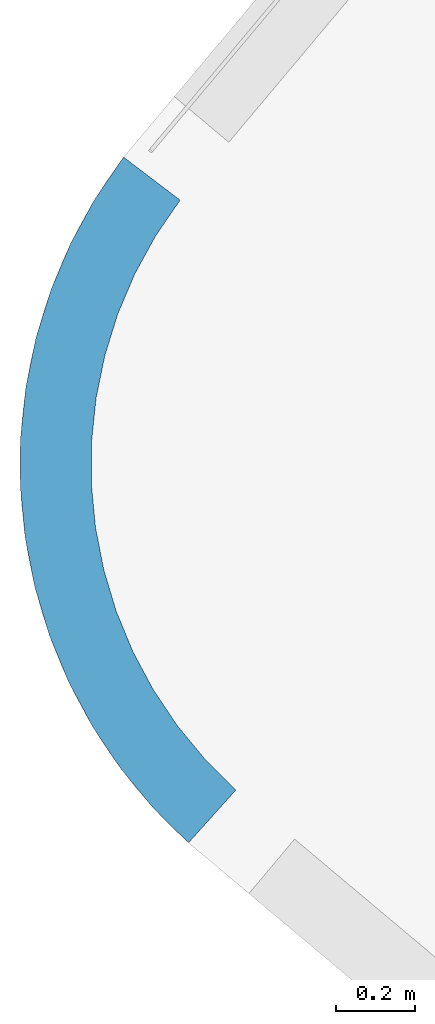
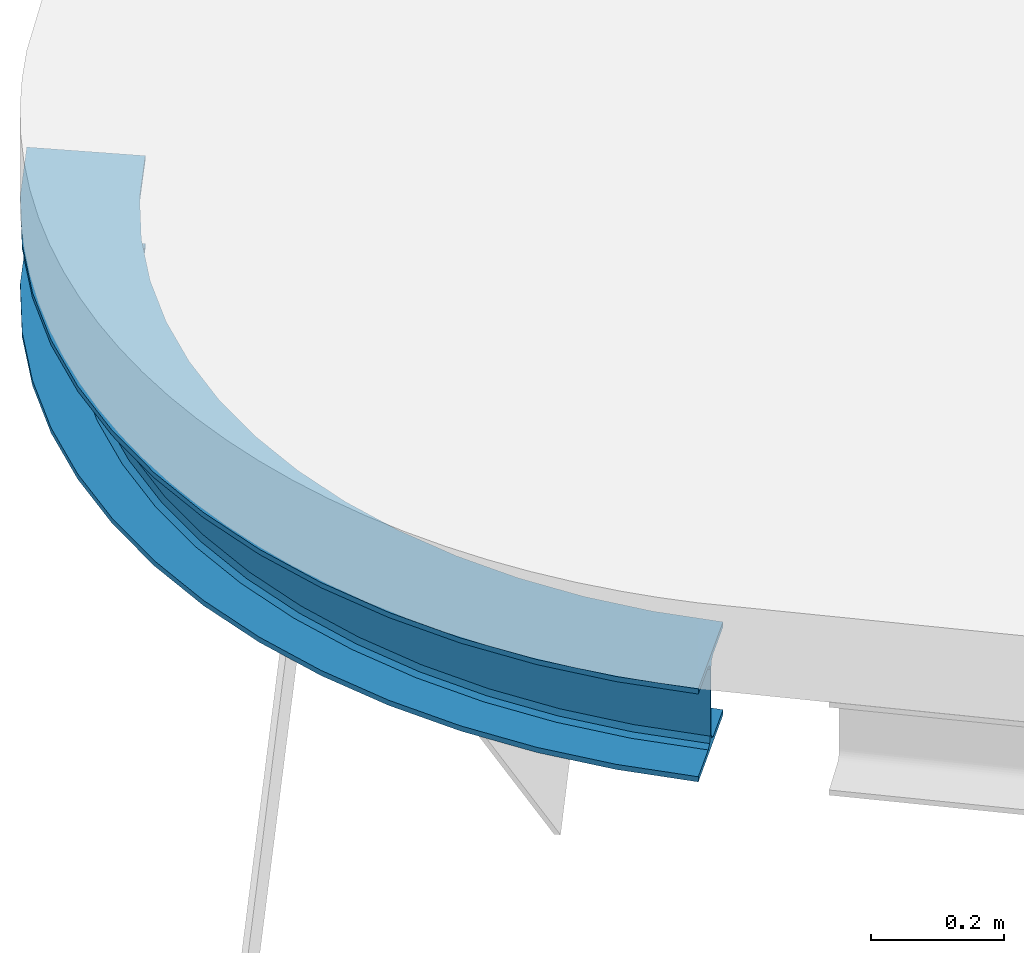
# One storey, part 8 of 14: 1 beam.
"""IFC2X3 building model written with IfcOpenShell, lengths in millimetres."""

import ifcopenshell
import ifcopenshell.guid

model = None  # the IFC model being written
_history = None  # IfcOwnerHistory: only IFC2X3 demands one
_inside = {}  # id of a spatial element -> (the spatial element, [elements in it])
_under = {}  # id of a project, library or spatial element -> (it, [spatial elements below it])
_declared = {}  # id of a project -> (the project, [libraries it declares])
_typed = {}  # id of a type object -> (the type object, [elements of that type])
_made_of = {}  # id of a material, layer set ... -> (it, [elements and type objects made of it])


def new_model(schema):
    """Start an empty IFC model of exactly this schema.

    Asked for "IFC4X3", IfcOpenShell would pick the latest addendum, in which some entities
    have other attributes; the version numbers below select the first issue.
    IFC2X3 requires an IfcOwnerHistory on every rooted entity: one is made here for all.
    """
    global model, _history
    if schema == "IFC4X3":
        model = ifcopenshell.file(schema_version=(4, 3, 0, 0))
    else:
        model = ifcopenshell.file(schema=schema)
    _inside.clear()
    _under.clear()
    _declared.clear()
    _typed.clear()
    _made_of.clear()
    _history = None
    if model.schema == "IFC2X3":
        org = make("IfcOrganization", Name="unknown")
        user = make(
            "IfcPersonAndOrganization",
            ThePerson=make("IfcPerson", FamilyName="unknown"),
            TheOrganization=org,
        )
        app = make(
            "IfcApplication",
            ApplicationDeveloper=org,
            Version="unknown",
            ApplicationFullName="unknown",
            ApplicationIdentifier="unknown",
        )
        _history = make(
            "IfcOwnerHistory",
            OwningUser=user,
            OwningApplication=app,
            ChangeAction="ADDED",
            CreationDate=0,
        )
    return model


def make(cls, **values):
    """One entity of the class cls with the attributes given. An attribute that is None is left unset."""
    return model.create_entity(
        cls, **{name: value for name, value in values.items() if value is not None}
    )


def entity(cls, *values):
    """Any entity or typed value of the class cls, its attributes in the order of the schema. None: left unset."""
    e = model.create_entity(cls)
    for i, value in enumerate(values):
        if value is not None:
            e[i] = value
    return e


def rooted(cls, **values):
    """An entity with a GlobalId (a new one), such as an element, a storey or a relation."""
    return make(cls, GlobalId=ifcopenshell.guid.new(), OwnerHistory=_history, **values)


def si_unit(unit_type, name, prefix=None):
    """IfcSIUnit, for example si_unit("LENGTHUNIT", "METRE", prefix="MILLI")."""
    return make("IfcSIUnit", UnitType=unit_type, Prefix=prefix, Name=name)


def converted_unit(unit_type, name, factor, base, dimensions=None, offset=None):
    """IfcConversionBasedUnit, such as the inch: factor (a typed value) times the base unit."""
    return make(
        "IfcConversionBasedUnit"
        if offset is None
        else "IfcConversionBasedUnitWithOffset",
        ConversionOffset=offset,
        Dimensions=None
        if dimensions is None
        else entity("IfcDimensionalExponents", *dimensions),
        UnitType=unit_type,
        Name=name,
        ConversionFactor=make(
            "IfcMeasureWithUnit", ValueComponent=factor, UnitComponent=base
        ),
    )


def derived_unit(unit_type, elements):
    """IfcDerivedUnit: a product of units, each with its exponent."""
    return make(
        "IfcDerivedUnit",
        Elements=[
            make("IfcDerivedUnitElement", Unit=unit, Exponent=power)
            for unit, power in elements
        ],
        UnitType=unit_type,
    )


def assignment(units):
    """IfcUnitAssignment: the units of a project."""
    return None if units is None else make("IfcUnitAssignment", Units=units)


def point(xyz):
    """IfcCartesianPoint."""
    return None if xyz is None else make("IfcCartesianPoint", Coordinates=xyz)


def direction(xyz):
    """IfcDirection."""
    return None if xyz is None else make("IfcDirection", DirectionRatios=xyz)


def frame(location, z_axis=None, x_axis=None):
    """IfcAxis2Placement3D, a coordinate frame: its origin and axes. An axis left out is left unset."""
    return make(
        "IfcAxis2Placement3D",
        Location=point(location),
        Axis=direction(z_axis),
        RefDirection=direction(x_axis),
    )


def origin():
    """The frame at (0, 0, 0) with its axes left unset."""
    return frame((0.0, 0.0, 0.0))


def place(relative_to, where):
    """IfcLocalPlacement: puts the frame where relative to a parent placement (None: the world)."""
    return make(
        "IfcLocalPlacement", PlacementRelTo=relative_to, RelativePlacement=where
    )


def context(
    kind, dimensions, precision=None, world=None, true_north=None, identifier=None
):
    """IfcGeometricRepresentationContext, for example the 3D "Model" context."""
    return make(
        "IfcGeometricRepresentationContext",
        ContextIdentifier=identifier,
        ContextType=kind,
        CoordinateSpaceDimension=dimensions,
        Precision=precision,
        WorldCoordinateSystem=world,
        TrueNorth=true_north,
    )


def subcontext(parent, identifier, kind, view, scale=None):
    """IfcGeometricRepresentationSubContext, for example "Body" below "Model"."""
    return make(
        "IfcGeometricRepresentationSubContext",
        ContextIdentifier=identifier,
        ContextType=kind,
        ParentContext=parent,
        TargetScale=scale,
        TargetView=view,
    )


def project(units=None, contexts=None):
    """IfcProject with its units and contexts."""
    return rooted(
        "IfcProject",
        Name="project",
        RepresentationContexts=contexts,
        UnitsInContext=assignment(units),
    )


def spatial(cls, under=None, at=None, **own):
    """A site, building, storey or space (cls), placed at a placement, below another one or the project."""
    s = rooted(cls, ObjectPlacement=at, **own)
    if under is not None:
        _under.setdefault(under.id(), (under, []))[1].append(s)
    return s


def faces_of(points, faces, orient=None, outer=None):
    """IfcFace entities. A face is a list of loops; a loop is a list of indices into points, from 0.

    orient and outer hold one flag for each loop. By default every Orientation is true, the
    first loop of a face is its IfcFaceOuterBound and the others are IfcFaceBound.
    """
    made = []
    for i, loops in enumerate(faces):
        bounds = []
        for j, loop in enumerate(loops):
            is_outer = j == 0 if outer is None else outer[i][j]
            bounds.append(
                make(
                    "IfcFaceOuterBound" if is_outer else "IfcFaceBound",
                    Bound=make("IfcPolyLoop", Polygon=[points[k] for k in loop]),
                    Orientation=True if orient is None else orient[i][j],
                )
            )
        made.append(make("IfcFace", Bounds=bounds))
    return made


def faceted_brep(points, faces, orient=None, outer=None, voids=None):
    """IfcFacetedBrep: a solid bounded by flat faces; with voids (closed shells), ...WithVoids."""
    shared = [point(p) for p in points]
    hull = make("IfcClosedShell", CfsFaces=faces_of(shared, faces, orient, outer))
    if voids is None:
        return make("IfcFacetedBrep", Outer=hull)
    return make(
        "IfcFacetedBrepWithVoids",
        Outer=hull,
        Voids=[
            make(cls, CfsFaces=faces_of(shared, fs, o, b)) for cls, fs, o, b in voids
        ],
    )


def shape(context_of_items, identifier, shape_type, items):
    """IfcShapeRepresentation: the items that make up one representation, for example the "Body"."""
    return make(
        "IfcShapeRepresentation",
        ContextOfItems=context_of_items,
        RepresentationIdentifier=identifier,
        RepresentationType=shape_type,
        Items=items,
    )


def material(Name=None, Category=None):
    """IfcMaterial."""
    return make("IfcMaterial", Name=Name, Category=Category)


def made_of(thing, what):
    """Note that an element or type object is made of a material, layer set ...; save() writes the relation."""
    if what is not None:
        _made_of.setdefault(what.id(), (what, []))[1].append(thing)
    return thing


def type_object(cls, material=None, **own):
    """A type object (cls), such as IfcWallType, which elements share."""
    return made_of(rooted(cls, **own), material)


def element(
    cls,
    number,
    at=None,
    inside=None,
    cuts=None,
    type_object=None,
    material=None,
    context=None,
    identifier="Body",
    shape_type=None,
    held_by="IfcProductDefinitionShape",
    body=None,
    shapes=None,
    **own,
):
    """One element of the class cls, such as IfcWall. Its Tag is "e" and its number.

    at: its placement. inside: the storey or other place that contains it. cuts: it is an
    opening in that element (IfcRelVoidsElement). A single representation is given by context,
    identifier, shape_type and body (its items); several are given by shapes. held_by: the class
    of the entity that holds the representations. save() writes the other relations.
    """
    e = rooted(cls, Tag="e%d" % number, ObjectPlacement=at, **own)
    if body is not None:
        shapes = [shape(context, identifier, shape_type, body)]
    if shapes is not None:
        e.Representation = make(held_by, Representations=shapes)
    if inside is not None:
        _inside.setdefault(inside.id(), (inside, []))[1].append(e)
    if cuts is not None:
        rooted(
            "IfcRelVoidsElement", RelatingBuildingElement=cuts, RelatedOpeningElement=e
        )
    if type_object is not None:
        _typed.setdefault(type_object.id(), (type_object, []))[1].append(e)
    return made_of(e, material)


def aggregate(whole, parts):
    """IfcRelAggregates: a whole, such as a stair, and the parts it consists of."""
    return rooted("IfcRelAggregates", RelatingObject=whole, RelatedObjects=parts)


def save(model, path):
    """Write the relations noted so far, then the file.

    IfcRelAggregates (storeys below a building ...), IfcRelContainedInSpatialStructure (elements
    in a storey), IfcRelDefinesByType, IfcRelAssociatesMaterial and IfcRelDeclares: one each for
    every whole, place, type object, material and project.
    """
    for whole, parts in _under.values():
        aggregate(whole, parts)
    for where, things in _inside.values():
        rooted(
            "IfcRelContainedInSpatialStructure",
            RelatedElements=things,
            RelatingStructure=where,
        )
    for kind, things in _typed.values():
        rooted("IfcRelDefinesByType", RelatedObjects=things, RelatingType=kind)
    for what, things in _made_of.values():
        rooted("IfcRelAssociatesMaterial", RelatedObjects=things, RelatingMaterial=what)
    for by, libraries in _declared.values():
        rooted("IfcRelDeclares", RelatingContext=by, RelatedDefinitions=libraries)
    model.write(path)


model = new_model("IFC2X3")

# Units and contexts
model_context = context("Model", 3, precision=0.01, world=origin(), true_north=direction((6.123031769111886e-17, 1.0)))
body_context = subcontext(model_context, "Body", "Model", "MODEL_VIEW")
ifc_project = project(units=[si_unit("LENGTHUNIT", "METRE", prefix="MILLI"), si_unit("AREAUNIT", "SQUARE_METRE"), si_unit("VOLUMEUNIT", "CUBIC_METRE"), derived_unit("MASSDENSITYUNIT", [(si_unit("MASSUNIT", "GRAM", prefix="KILO"), 1), (si_unit("LENGTHUNIT", "METRE"), -3)]), si_unit("MASSUNIT", "GRAM", prefix="KILO"), converted_unit("PLANEANGLEUNIT", "DEGREE", entity("IfcPlaneAngleMeasure", 0.017453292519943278), si_unit("PLANEANGLEUNIT", "RADIAN"), dimensions=[0, 0, 0, 0, 0, 0, 0])], contexts=[model_context])

# Site, building, storey
site_placement = place(None, origin())
site = spatial("IfcSite", under=ifc_project, at=site_placement, Name="Default", CompositionType="ELEMENT")
building_placement = place(site_placement, origin())
building = spatial("IfcBuilding", under=site, at=building_placement, Name="AT constructie", CompositionType="ELEMENT")
storey_placement = place(building_placement, frame((0.0, 0.0, 12043.0)))
storey = spatial("IfcBuildingStorey", under=building, at=storey_placement, Name="03 derde verdieping", CompositionType="ELEMENT", Elevation=12043.0)

# Beam
ifc_material = material(Name="h2_staal_S355")
beam_type = type_object("IfcBeamType", Name="balk HE_gen_HEA180", PredefinedType="NOTDEFINED")
beam_placement = place(storey_placement, frame((7904.880836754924, 36284.616264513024, 0.0)))
element("IfcBeam", 1, at=beam_placement, inside=storey, type_object=beam_type, material=ifc_material, Name="NLRS_28_SF_LIB_balk HEA_gen_AT:balk HE_gen_HEA180", ObjectType="NLRS_28_SF_LIB_balk HEA_gen_AT:balk HE_gen_HEA180", context=body_context, shape_type="Brep", body=[
    faceted_brep([(-1097.551484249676, 673.8556473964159, -180.0), (-944.1557108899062, 579.6763677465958, -180.0), (-882.0856226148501, 670.3578537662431, -180.0), (-1025.3969479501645, 779.2700387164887, -180.0), (-944.1557108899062, 579.6763677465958, -189.5000000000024), (-882.0856226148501, 670.3578537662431, -189.5000000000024), (-1005.5140202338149, 617.3480796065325, -189.4999999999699), (-939.4101527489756, 713.92272774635, -189.4999999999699), (-1014.5529528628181, 622.8976468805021, -193.89339828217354), (-947.8548535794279, 720.3404397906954, -193.89339828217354), (-1018.2970013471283, 625.1963529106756, -204.50000000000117), (-951.3527631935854, 722.9987431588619, -204.50000000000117), (-1018.2970013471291, 625.1963529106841, -326.49999999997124), (-951.3527631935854, 722.9987431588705, -326.49999999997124), (-1014.5529528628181, 622.8976468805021, -337.10660171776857), (-947.8548535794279, 720.3404397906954, -337.10660171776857), (-1005.514020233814, 617.3480796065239, -341.5000000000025), (-939.4101527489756, 713.9227277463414, -341.5000000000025), (-944.1557108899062, 579.6763677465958, -341.5000000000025), (-882.0856226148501, 670.3578537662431, -341.5000000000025), (-944.1557108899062, 579.6763677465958, -351.0), (-882.0856226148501, 670.3578537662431, -351.0), (-1097.551484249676, 673.8556473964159, -351.0), (-1025.3969479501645, 779.2700387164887, -351.0), (-1097.551484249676, 673.8556473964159, -341.5000000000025), (-1025.3969479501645, 779.2700387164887, -341.5000000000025), (-1036.1931749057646, 636.183935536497, -341.4999999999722), (-968.0724178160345, 735.7051647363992, -341.4999999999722), (-1027.1542422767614, 630.6343682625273, -337.10660171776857), (-959.6277169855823, 729.2874526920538, -337.10660171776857), (-1023.410193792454, 628.3356622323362, -326.5000000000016), (-956.1298073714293, 726.62914932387, -326.5000000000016), (-1023.4101937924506, 628.3356622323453, -204.49999999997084), (-956.1298073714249, 726.6291493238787, -204.49999999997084), (-1027.1542422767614, 630.6343682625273, -193.89339828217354), (-959.6277169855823, 729.2874526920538, -193.89339828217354), (-1036.1931749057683, 636.183935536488, -189.5000000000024), (-968.072417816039, 735.7051647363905, -189.5000000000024), (-1097.551484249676, 673.8556473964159, -189.5000000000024), (-1025.3969479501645, 779.2700387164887, -189.5000000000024), (-1158.9081941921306, 561.8117937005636, -180.0), (-996.9370964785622, 483.2919649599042, -180.0), (-996.9370964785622, 483.2919649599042, -189.5000000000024), (-1061.7255355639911, 514.6998964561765, -189.4999999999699), (-1071.2697740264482, 519.3267217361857, -193.89339828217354), (-1075.2231270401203, 521.2432155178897, -204.50000000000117), (-1075.2231270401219, 521.243215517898, -326.49999999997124), (-1071.2697740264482, 519.3267217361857, -337.10660171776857), (-1061.7255355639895, 514.6998964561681, -341.5000000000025), (-996.9370964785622, 483.2919649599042, -341.5000000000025), (-996.9370964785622, 483.2919649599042, -351.0), (-1158.9081941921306, 561.8117937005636, -351.0), (-1158.9081941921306, 561.8117937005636, -341.5000000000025), (-1094.119755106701, 530.4038622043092, -341.4999999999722), (-1084.5755166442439, 525.7770369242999, -337.10660171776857), (-1080.6221636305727, 523.8605431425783, -326.5000000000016), (-1080.6221636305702, 523.8605431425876, -204.49999999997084), (-1084.5755166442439, 525.7770369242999, -193.89339828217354), (-1094.1197551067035, 530.4038622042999, -189.5000000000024), (-1158.9081941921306, 561.8117937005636, -189.5000000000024), (-1208.8634440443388, 444.24077678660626, -180.0), (-1039.9105105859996, 382.1528852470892, -180.0), (-1039.9105105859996, 382.1528852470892, -189.5000000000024), (-1107.4916839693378, 406.9880418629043, -189.4999999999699), (-1117.4473310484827, 410.646605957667, -193.89339828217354), (-1121.5710950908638, 412.1620328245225, -204.50000000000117), (-1121.571095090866, 412.1620328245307, -326.49999999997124), (-1117.4473310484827, 410.646605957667, -337.10660171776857), (-1107.4916839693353, 406.98804186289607, -341.5000000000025), (-1039.9105105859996, 382.1528852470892, -341.5000000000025), (-1039.9105105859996, 382.1528852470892, -351.0), (-1208.8634440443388, 444.24077678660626, -351.0), (-1208.8634440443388, 444.24077678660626, -341.5000000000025), (-1141.2822706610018, 419.40562017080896, -341.4999999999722), (-1131.3266235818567, 415.74705607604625, -337.10660171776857), (-1127.2028595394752, 414.231629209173, -326.5000000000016), (-1127.2028595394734, 414.2316292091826, -204.49999999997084), (-1131.3266235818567, 415.74705607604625, -193.89339828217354), (-1141.2822706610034, 419.40562017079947, -189.5000000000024), (-1208.8634440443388, 444.24077678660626, -189.5000000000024), (-1246.9257688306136, 322.29927262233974, -180.0), (-1072.6531762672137, 277.2541454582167, -180.0), (-1072.6531762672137, 277.2541454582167, -189.5000000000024), (-1142.3622132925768, 295.2721963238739, -189.4999999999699), (-1152.6313242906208, 297.92650589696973, -193.89339828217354), (-1156.8849293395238, 299.02595692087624, -204.50000000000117), (-1156.884929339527, 299.02595692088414, -326.49999999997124), (-1152.6313242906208, 297.92650589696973, -337.10660171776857), (-1142.3622132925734, 295.272196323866, -341.5000000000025), (-1072.6531762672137, 277.2541454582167, -341.5000000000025), (-1072.6531762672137, 277.2541454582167, -351.0), (-1246.9257688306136, 322.29927262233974, -351.0), (-1246.9257688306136, 322.29927262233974, -341.5000000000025), (-1177.2167318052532, 304.2812217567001, -341.4999999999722), (-1166.947620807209, 301.6269121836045, -337.10660171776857), (-1162.6940157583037, 300.5274611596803, -326.5000000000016), (-1162.694015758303, 300.52746115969, -204.49999999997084), (-1166.947620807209, 301.6269121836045, -193.89339828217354), (-1177.2167318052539, 304.2812217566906, -189.5000000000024), (-1246.9257688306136, 322.29927262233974, -189.5000000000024), (-1272.720707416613, 197.18695448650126, -180.0), (-1094.8429677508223, 169.62775037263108, -180.0), (-1094.8429677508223, 169.62775037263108, -189.5000000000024), (-1165.9940636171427, 180.6514320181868, -189.4999999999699), (-1176.4756099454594, 182.27537369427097, -193.89339828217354), (-1180.8172085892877, 182.94803236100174, -204.50000000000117), (-1180.817208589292, 182.94803236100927, -326.49999999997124), (-1176.4756099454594, 182.27537369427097, -337.10660171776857), (-1165.9940636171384, 180.65143201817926, -341.5000000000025), (-1094.8429677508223, 169.62775037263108, -341.5000000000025), (-1094.8429677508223, 169.62775037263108, -351.0), (-1272.720707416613, 197.18695448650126, -351.0), (-1272.720707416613, 197.18695448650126, -341.5000000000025), (-1201.5696115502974, 186.16327284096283, -341.4999999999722), (-1191.0880652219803, 184.53933116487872, -337.10660171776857), (-1186.7464665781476, 183.86667249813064, -326.5000000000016), (-1186.746466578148, 183.86667249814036, -204.49999999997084), (-1191.0880652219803, 184.53933116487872, -193.89339828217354), (-1201.569611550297, 186.16327284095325, -189.5000000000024), (-1272.720707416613, 197.18695448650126, -189.5000000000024), (-1285.9944864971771, 70.13469045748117, -180.0), (-1106.261579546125, 60.33253972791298, -180.0), (-1106.261579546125, 60.33253972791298, -189.5000000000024), (-1178.1547423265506, 64.25340001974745, -189.4999999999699), (-1188.745605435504, 64.83099729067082, -193.89339828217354), (-1193.1324845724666, 65.07024591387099, -204.50000000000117), (-1193.1324845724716, 65.07024591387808, -326.49999999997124), (-1188.745605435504, 64.83099729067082, -337.10660171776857), (-1178.1547423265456, 64.25340001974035, -341.5000000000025), (-1106.261579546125, 60.33253972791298, -341.5000000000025), (-1106.261579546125, 60.33253972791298, -351.0), (-1285.9944864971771, 70.13469045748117, -351.0), (-1285.9944864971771, 70.13469045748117, -341.5000000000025), (-1214.1013237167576, 66.21383016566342, -341.4999999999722), (-1203.510460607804, 65.63623289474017, -337.10660171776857), (-1199.1235814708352, 65.39698427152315, -326.5000000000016), (-1199.1235814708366, 65.39698427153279, -204.49999999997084), (-1203.510460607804, 65.63623289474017, -193.89339828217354), (-1214.1013237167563, 66.2138301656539, -189.5000000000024), (-1285.9944864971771, 70.13469045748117, -189.5000000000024), (-1286.6165172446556, -57.60756599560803, -180.0), (-1106.7966741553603, -49.55622875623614, -180.0), (-1106.7966741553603, -49.55622875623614, -189.5000000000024), (-1178.724611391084, -52.77676365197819, -189.4999999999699), (-1189.320597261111, -53.25119324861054, -193.89339828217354), (-1193.7095983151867, -53.4477084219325, -204.50000000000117), (-1193.7095983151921, -53.44770842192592, -326.49999999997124), (-1189.320597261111, -53.25119324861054, -337.10660171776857), (-1178.7246113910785, -52.77676365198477, -341.5000000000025), (-1106.7966741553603, -49.55622875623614, -341.5000000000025), (-1106.7966741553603, -49.55622875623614, -351.0), (-1286.6165172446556, -57.60756599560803, -351.0), (-1286.6165172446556, -57.60756599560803, -341.5000000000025), (-1214.6885800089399, -54.38703109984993, -341.4999999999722), (-1204.0925941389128, -53.91260150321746, -337.10660171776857), (-1199.7035930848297, -53.716086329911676, -326.5000000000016), (-1199.703593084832, -53.71608632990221, -204.49999999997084), (-1204.0925941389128, -53.91260150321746, -193.89339828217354), (-1214.6885800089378, -54.387031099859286, -189.5000000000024), (-1286.6165172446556, -57.60756599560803, -189.5000000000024), (-1274.5806800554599, -184.78307318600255, -180.0), (-1096.4429872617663, -158.95745787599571, -180.0), (-1096.4429872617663, -158.95745787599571, -189.5000000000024), (-1167.6980643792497, -169.28770399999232, -189.4999999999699), (-1178.1949285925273, -170.80949297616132, -193.89339828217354), (-1182.5428721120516, -171.43983860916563, -204.50000000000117), (-1182.5428721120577, -171.43983860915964, -326.49999999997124), (-1178.1949285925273, -170.80949297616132, -337.10660171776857), (-1167.6980643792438, -169.2877039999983, -341.5000000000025), (-1096.4429872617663, -158.95745787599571, -341.5000000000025), (-1096.4429872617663, -158.95745787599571, -351.0), (-1274.5806800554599, -184.78307318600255, -351.0), (-1274.5806800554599, -184.78307318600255, -341.5000000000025), (-1203.3256029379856, -174.45282706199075, -341.4999999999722), (-1192.8287387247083, -172.93103808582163, -337.10660171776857), (-1188.4807952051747, -172.30069245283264, -326.5000000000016), (-1188.4807952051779, -172.30069245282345, -204.49999999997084), (-1192.8287387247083, -172.93103808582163, -193.89339828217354), (-1203.3256029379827, -174.45282706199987, -189.5000000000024), (-1274.5806800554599, -184.78307318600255, -189.5000000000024), (-1250.0053847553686, -310.14066516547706, -180.0), (-1075.3023795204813, -266.7948468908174, -180.0), (-1075.3023795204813, -266.7948468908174, -189.5000000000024), (-1145.1835816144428, -284.1331742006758, -189.4999999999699), (-1155.4780549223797, -286.6873510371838, -193.89339828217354), (-1159.7421653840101, -287.7453257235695, -204.50000000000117), (-1159.742165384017, -287.7453257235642, -326.49999999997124), (-1155.4780549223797, -286.6873510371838, -337.10660171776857), (-1145.1835816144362, -284.13317420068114, -341.5000000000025), (-1075.3023795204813, -266.7948468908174, -341.5000000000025), (-1075.3023795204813, -266.7948468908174, -351.0), (-1250.0053847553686, -310.14066516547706, -351.0), (-1250.0053847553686, -310.14066516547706, -341.5000000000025), (-1180.124182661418, -292.8023378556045, -341.4999999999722), (-1169.8297093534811, -290.2481610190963, -337.10660171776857), (-1165.5655988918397, -289.190186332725, -326.5000000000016), (-1165.5655988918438, -289.1901863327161, -204.49999999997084), (-1169.8297093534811, -290.2481610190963, -193.89339828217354), (-1180.1241826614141, -292.80233785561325, -189.5000000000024), (-1250.0053847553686, -310.14066516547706, -189.5000000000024), (-1213.132405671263, -432.4470608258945, -180.0), (-1043.5828344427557, -372.0074802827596, -180.0), (-1043.5828344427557, -372.0074802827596, -189.5000000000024), (-1111.4026629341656, -396.18331250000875, -189.4999999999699), (-1121.3934672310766, -399.7447489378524, -193.89339828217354), (-1125.5317938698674, -401.2199442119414, -204.50000000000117), (-1125.531793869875, -401.2199442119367, -326.49999999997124), (-1121.3934672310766, -399.7447489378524, -337.10660171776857), (-1111.4026629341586, -396.1833125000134, -341.5000000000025), (-1043.5828344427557, -372.0074802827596, -341.5000000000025), (-1043.5828344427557, -372.0074802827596, -351.0), (-1213.132405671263, -432.4470608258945, -351.0), (-1213.132405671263, -432.4470608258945, -341.5000000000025), (-1145.312577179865, -408.27122860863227, -341.4999999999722), (-1135.321772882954, -404.70979217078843, -337.10660171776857), (-1131.1834462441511, -403.2345968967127, -326.5000000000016), (-1131.1834462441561, -403.2345968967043, -204.49999999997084), (-1135.321772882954, -404.70979217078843, -193.89339828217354), (-1145.3125771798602, -408.2712286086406, -189.5000000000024), (-1213.132405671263, -432.4470608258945, -189.5000000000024), (-1164.3245030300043, -550.4989970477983, -180.0), (-1001.5964122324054, -473.5602651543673, -180.0), (-1001.5964122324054, -473.5602651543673, -189.5000000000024), (-1066.6876485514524, -504.33575791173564, -189.4999999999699), (-1076.2764932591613, -508.8694161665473, -193.89339828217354), (-1080.2483227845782, -510.7473189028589, -204.50000000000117), (-1080.248322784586, -510.747318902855, -326.49999999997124), (-1076.2764932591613, -508.8694161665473, -337.10660171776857), (-1066.687648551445, -504.33575791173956, -341.5000000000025), (-1001.5964122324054, -473.5602651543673, -341.5000000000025), (-1001.5964122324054, -473.5602651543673, -351.0), (-1164.3245030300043, -550.4989970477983, -351.0), (-1164.3245030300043, -550.4989970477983, -341.5000000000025), (-1099.2332667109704, -519.7235042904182, -341.4999999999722), (-1089.6444220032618, -515.1898460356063, -337.10660171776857), (-1085.6725924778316, -513.3119432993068, -326.5000000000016), (-1085.6725924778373, -513.311943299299, -204.49999999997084), (-1089.6444220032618, -515.1898460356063, -193.89339828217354), (-1099.233266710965, -519.723504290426, -189.5000000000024), (-1164.3245030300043, -550.4989970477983, -189.5000000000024), (-1104.0618540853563, -663.1350665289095, -180.0), (-949.7561797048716, -570.4541145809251, -180.0), (-949.7561797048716, -570.4541145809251, -189.5000000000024), (-1011.4784494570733, -607.5264953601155, -189.4999999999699), (-1020.5709985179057, -612.9877728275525, -193.89339828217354), (-1024.337255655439, -615.2499080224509, -204.50000000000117), (-1024.3372556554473, -615.2499080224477, -326.49999999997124), (-1020.5709985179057, -612.9877728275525, -337.10660171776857), (-1011.4784494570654, -607.5264953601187, -341.5000000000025), (-949.7561797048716, -570.4541145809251, -341.5000000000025), (-949.7561797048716, -570.4541145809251, -351.0), (-1104.0618540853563, -663.1350665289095, -351.0), (-1104.0618540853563, -663.1350665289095, -341.5000000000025), (-1042.339584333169, -626.0626857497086, -341.4999999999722), (-1033.2470352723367, -620.6014082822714, -337.10660171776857), (-1029.4807781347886, -618.3392730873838, -326.5000000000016), (-1029.4807781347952, -618.3392730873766, -204.49999999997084), (-1033.2470352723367, -620.6014082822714, -193.89339828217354), (-1042.3395843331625, -626.0626857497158, -189.5000000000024), (-1104.0618540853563, -663.1350665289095, -189.5000000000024), (-1032.9373290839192, -769.2471438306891, -180.0), (-888.5721464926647, -661.7357767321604, -180.0), (-888.5721464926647, -661.7357767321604, -189.5000000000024), (-946.3182195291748, -704.7403235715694, -189.4999999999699), (-954.8250194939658, -711.0754916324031, -193.89339828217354), (-958.3486514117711, -713.6996041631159, -204.50000000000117), (-958.3486514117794, -713.6996041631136, -326.49999999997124), (-954.8250194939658, -711.0754916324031, -337.10660171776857), (-946.3182195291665, -704.7403235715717, -341.5000000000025), (-888.5721464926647, -661.7357767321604, -341.5000000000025), (-888.5721464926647, -661.7357767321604, -351.0), (-1032.9373290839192, -769.2471438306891, -351.0), (-1032.9373290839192, -769.2471438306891, -341.5000000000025), (-975.1912560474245, -726.2425969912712, -341.4999999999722), (-966.6844560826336, -719.9074289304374, -337.10660171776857), (-963.1608241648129, -717.2833163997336, -326.5000000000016), (-963.16082416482, -717.2833163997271, -204.49999999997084), (-966.6844560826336, -719.9074289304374, -193.89339828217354), (-975.1912560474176, -726.2425969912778, -189.5000000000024), (-1032.9373290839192, -769.2471438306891, -189.5000000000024), (-951.6506585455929, -867.791287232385, -180.0), (-818.6462475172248, -746.5072130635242, -180.0), (-818.6462475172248, -746.5072130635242, -189.5000000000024), (-871.8480119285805, -795.0208427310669, -189.4999999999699), (-879.6853720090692, -802.167575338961, -193.89339828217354), (-882.9317128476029, -805.127848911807, -204.50000000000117), (-882.9317128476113, -805.1278489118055, -326.49999999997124), (-879.6853720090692, -802.167575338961, -337.10660171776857), (-871.8480119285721, -795.0208427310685, -341.5000000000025), (-818.6462475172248, -746.5072130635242, -341.5000000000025), (-818.6462475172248, -746.5072130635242, -351.0), (-951.6506585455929, -867.791287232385, -351.0), (-951.6506585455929, -867.791287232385, -341.5000000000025), (-898.4488941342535, -819.2776575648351, -341.4999999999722), (-890.6115340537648, -812.1309249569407, -337.10660171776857), (-887.3651932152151, -809.1706513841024, -326.5000000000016), (-887.3651932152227, -809.1706513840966, -204.49999999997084), (-890.6115340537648, -812.1309249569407, -193.89339828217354), (-898.4488941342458, -819.2776575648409, -189.5000000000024), (-951.6506585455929, -867.791287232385, -189.5000000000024), (-861.001549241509, -957.7980091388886, -180.0), (-740.6664210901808, -823.9344333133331, -180.0), (-740.6664210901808, -823.9344333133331, -189.5000000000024), (-788.8004723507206, -877.4798636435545, -189.4999999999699), (-795.8912877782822, -885.3678504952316, -193.89339828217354), (-798.8283996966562, -888.6351616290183, -204.50000000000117), (-798.8283996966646, -888.6351616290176, -326.49999999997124), (-795.8912877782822, -885.3678504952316, -337.10660171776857), (-788.8004723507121, -877.4798636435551, -341.5000000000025), (-740.6664210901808, -823.9344333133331, -341.5000000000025), (-740.6664210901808, -823.9344333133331, -351.0), (-861.001549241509, -957.7980091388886, -351.0), (-861.001549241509, -957.7980091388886, -341.5000000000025), (-812.8674979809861, -904.2525788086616, -341.4999999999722), (-805.7766825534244, -896.3645919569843, -337.10660171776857), (-802.8395706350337, -893.0972808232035, -326.5000000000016), (-802.8395706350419, -893.0972808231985, -204.49999999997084), (-805.7766825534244, -896.3645919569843, -193.89339828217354), (-812.8674979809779, -904.2525788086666, -189.5000000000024), (-861.001549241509, -957.7980091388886, -189.5000000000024)], [[[0, 1, 2, 3]], [[1, 4, 5, 2]], [[4, 6, 7, 5]], [[6, 8, 9, 7]], [[8, 10, 11, 9]], [[10, 12, 13, 11]], [[12, 14, 15, 13]], [[14, 16, 17, 15]], [[16, 18, 19, 17]], [[18, 20, 21, 19]], [[20, 22, 23, 21]], [[22, 24, 25, 23]], [[24, 26, 27, 25]], [[26, 28, 29, 27]], [[28, 30, 31, 29]], [[30, 32, 33, 31]], [[32, 34, 35, 33]], [[34, 36, 37, 35]], [[36, 38, 39, 37]], [[38, 0, 3, 39]], [[40, 41, 1, 0]], [[41, 42, 4, 1]], [[42, 43, 6, 4]], [[43, 44, 8, 6]], [[44, 45, 10, 8]], [[45, 46, 12, 10]], [[46, 47, 14, 12]], [[47, 48, 16, 14]], [[48, 49, 18, 16]], [[49, 50, 20, 18]], [[50, 51, 22, 20]], [[51, 52, 24, 22]], [[52, 53, 26, 24]], [[53, 54, 28, 26]], [[54, 55, 30, 28]], [[55, 56, 32, 30]], [[56, 57, 34, 32]], [[57, 58, 36, 34]], [[58, 59, 38, 36]], [[59, 40, 0, 38]], [[60, 61, 41, 40]], [[61, 62, 42, 41]], [[62, 63, 43, 42]], [[63, 64, 44, 43]], [[64, 65, 45, 44]], [[65, 66, 46, 45]], [[66, 67, 47, 46]], [[67, 68, 48, 47]], [[68, 69, 49, 48]], [[69, 70, 50, 49]], [[70, 71, 51, 50]], [[71, 72, 52, 51]], [[72, 73, 53, 52]], [[73, 74, 54, 53]], [[74, 75, 55, 54]], [[75, 76, 56, 55]], [[76, 77, 57, 56]], [[77, 78, 58, 57]], [[78, 79, 59, 58]], [[79, 60, 40, 59]], [[80, 81, 61, 60]], [[81, 82, 62, 61]], [[82, 83, 63, 62]], [[83, 84, 64, 63]], [[84, 85, 65, 64]], [[85, 86, 66, 65]], [[86, 87, 67, 66]], [[87, 88, 68, 67]], [[88, 89, 69, 68]], [[89, 90, 70, 69]], [[90, 91, 71, 70]], [[91, 92, 72, 71]], [[92, 93, 73, 72]], [[93, 94, 74, 73]], [[94, 95, 75, 74]], [[95, 96, 76, 75]], [[96, 97, 77, 76]], [[97, 98, 78, 77]], [[98, 99, 79, 78]], [[99, 80, 60, 79]], [[100, 101, 81, 80]], [[101, 102, 82, 81]], [[102, 103, 83, 82]], [[103, 104, 84, 83]], [[104, 105, 85, 84]], [[105, 106, 86, 85]], [[106, 107, 87, 86]], [[107, 108, 88, 87]], [[108, 109, 89, 88]], [[109, 110, 90, 89]], [[110, 111, 91, 90]], [[111, 112, 92, 91]], [[112, 113, 93, 92]], [[113, 114, 94, 93]], [[114, 115, 95, 94]], [[115, 116, 96, 95]], [[116, 117, 97, 96]], [[117, 118, 98, 97]], [[118, 119, 99, 98]], [[119, 100, 80, 99]], [[120, 121, 101, 100]], [[121, 122, 102, 101]], [[122, 123, 103, 102]], [[123, 124, 104, 103]], [[124, 125, 105, 104]], [[125, 126, 106, 105]], [[126, 127, 107, 106]], [[127, 128, 108, 107]], [[128, 129, 109, 108]], [[129, 130, 110, 109]], [[130, 131, 111, 110]], [[131, 132, 112, 111]], [[132, 133, 113, 112]], [[133, 134, 114, 113]], [[134, 135, 115, 114]], [[135, 136, 116, 115]], [[136, 137, 117, 116]], [[137, 138, 118, 117]], [[138, 139, 119, 118]], [[139, 120, 100, 119]], [[140, 141, 121, 120]], [[141, 142, 122, 121]], [[142, 143, 123, 122]], [[143, 144, 124, 123]], [[144, 145, 125, 124]], [[145, 146, 126, 125]], [[146, 147, 127, 126]], [[147, 148, 128, 127]], [[148, 149, 129, 128]], [[149, 150, 130, 129]], [[150, 151, 131, 130]], [[151, 152, 132, 131]], [[152, 153, 133, 132]], [[153, 154, 134, 133]], [[154, 155, 135, 134]], [[155, 156, 136, 135]], [[156, 157, 137, 136]], [[157, 158, 138, 137]], [[158, 159, 139, 138]], [[159, 140, 120, 139]], [[160, 161, 141, 140]], [[161, 162, 142, 141]], [[162, 163, 143, 142]], [[163, 164, 144, 143]], [[164, 165, 145, 144]], [[165, 166, 146, 145]], [[166, 167, 147, 146]], [[167, 168, 148, 147]], [[168, 169, 149, 148]], [[169, 170, 150, 149]], [[170, 171, 151, 150]], [[171, 172, 152, 151]], [[172, 173, 153, 152]], [[173, 174, 154, 153]], [[174, 175, 155, 154]], [[175, 176, 156, 155]], [[176, 177, 157, 156]], [[177, 178, 158, 157]], [[178, 179, 159, 158]], [[179, 160, 140, 159]], [[180, 181, 161, 160]], [[181, 182, 162, 161]], [[182, 183, 163, 162]], [[183, 184, 164, 163]], [[184, 185, 165, 164]], [[185, 186, 166, 165]], [[186, 187, 167, 166]], [[187, 188, 168, 167]], [[188, 189, 169, 168]], [[189, 190, 170, 169]], [[190, 191, 171, 170]], [[191, 192, 172, 171]], [[192, 193, 173, 172]], [[193, 194, 174, 173]], [[194, 195, 175, 174]], [[195, 196, 176, 175]], [[196, 197, 177, 176]], [[197, 198, 178, 177]], [[198, 199, 179, 178]], [[199, 180, 160, 179]], [[200, 201, 181, 180]], [[201, 202, 182, 181]], [[202, 203, 183, 182]], [[203, 204, 184, 183]], [[204, 205, 185, 184]], [[205, 206, 186, 185]], [[206, 207, 187, 186]], [[207, 208, 188, 187]], [[208, 209, 189, 188]], [[209, 210, 190, 189]], [[210, 211, 191, 190]], [[211, 212, 192, 191]], [[212, 213, 193, 192]], [[213, 214, 194, 193]], [[214, 215, 195, 194]], [[215, 216, 196, 195]], [[216, 217, 197, 196]], [[217, 218, 198, 197]], [[218, 219, 199, 198]], [[219, 200, 180, 199]], [[220, 221, 201, 200]], [[221, 222, 202, 201]], [[222, 223, 203, 202]], [[223, 224, 204, 203]], [[224, 225, 205, 204]], [[225, 226, 206, 205]], [[226, 227, 207, 206]], [[227, 228, 208, 207]], [[228, 229, 209, 208]], [[229, 230, 210, 209]], [[230, 231, 211, 210]], [[231, 232, 212, 211]], [[232, 233, 213, 212]], [[233, 234, 214, 213]], [[234, 235, 215, 214]], [[235, 236, 216, 215]], [[236, 237, 217, 216]], [[237, 238, 218, 217]], [[238, 239, 219, 218]], [[239, 220, 200, 219]], [[240, 241, 221, 220]], [[241, 242, 222, 221]], [[242, 243, 223, 222]], [[243, 244, 224, 223]], [[244, 245, 225, 224]], [[245, 246, 226, 225]], [[246, 247, 227, 226]], [[247, 248, 228, 227]], [[248, 249, 229, 228]], [[249, 250, 230, 229]], [[250, 251, 231, 230]], [[251, 252, 232, 231]], [[252, 253, 233, 232]], [[253, 254, 234, 233]], [[254, 255, 235, 234]], [[255, 256, 236, 235]], [[256, 257, 237, 236]], [[257, 258, 238, 237]], [[258, 259, 239, 238]], [[259, 240, 220, 239]], [[260, 261, 241, 240]], [[261, 262, 242, 241]], [[262, 263, 243, 242]], [[263, 264, 244, 243]], [[264, 265, 245, 244]], [[265, 266, 246, 245]], [[266, 267, 247, 246]], [[267, 268, 248, 247]], [[268, 269, 249, 248]], [[269, 270, 250, 249]], [[270, 271, 251, 250]], [[271, 272, 252, 251]], [[272, 273, 253, 252]], [[273, 274, 254, 253]], [[274, 275, 255, 254]], [[275, 276, 256, 255]], [[276, 277, 257, 256]], [[277, 278, 258, 257]], [[278, 279, 259, 258]], [[279, 260, 240, 259]], [[280, 281, 261, 260]], [[281, 282, 262, 261]], [[282, 283, 263, 262]], [[283, 284, 264, 263]], [[284, 285, 265, 264]], [[285, 286, 266, 265]], [[286, 287, 267, 266]], [[287, 288, 268, 267]], [[288, 289, 269, 268]], [[289, 290, 270, 269]], [[290, 291, 271, 270]], [[291, 292, 272, 271]], [[292, 293, 273, 272]], [[293, 294, 274, 273]], [[294, 295, 275, 274]], [[295, 296, 276, 275]], [[296, 297, 277, 276]], [[297, 298, 278, 277]], [[298, 299, 279, 278]], [[299, 280, 260, 279]], [[300, 301, 281, 280]], [[301, 302, 282, 281]], [[302, 303, 283, 282]], [[303, 304, 284, 283]], [[304, 305, 285, 284]], [[305, 306, 286, 285]], [[306, 307, 287, 286]], [[307, 308, 288, 287]], [[308, 309, 289, 288]], [[309, 310, 290, 289]], [[310, 311, 291, 290]], [[311, 312, 292, 291]], [[312, 313, 293, 292]], [[313, 314, 294, 293]], [[314, 315, 295, 294]], [[315, 316, 296, 295]], [[316, 317, 297, 296]], [[317, 318, 298, 297]], [[318, 319, 299, 298]], [[319, 300, 280, 299]], [[3, 2, 5, 7, 9, 11, 13, 15, 17, 19, 21, 23, 25, 27, 29, 31, 33, 35, 37, 39]], [[319, 318, 317, 316, 315, 314, 313, 312, 311, 310, 309, 308, 307, 306, 305, 304, 303, 302, 301, 300]]]),
])

save(model, "model.ifc")
